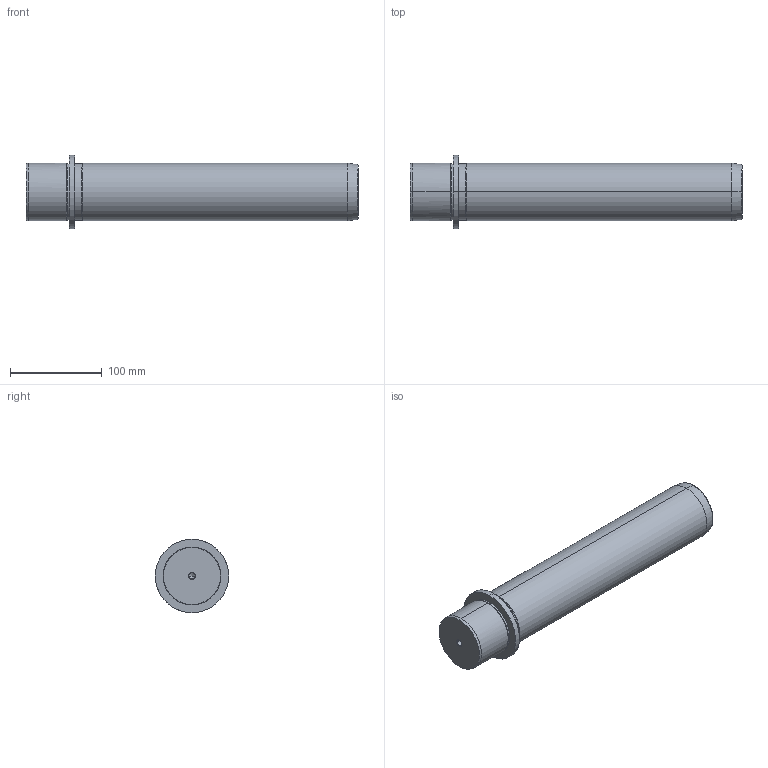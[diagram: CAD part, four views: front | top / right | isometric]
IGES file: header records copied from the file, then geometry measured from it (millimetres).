
Start section: START RECORD GO HERE.
Global section: file name: 718-63x315.igs; native system: DASSAULT SYSTEMES CATIA V5 R20 - www.3ds.com; preprocessor: CATIA Version 5 Release 20 ; author: Utente; organization: NB04-ASUS; date: 20210102.084145; units: millimetre
Bounding box: 362 x 80 x 80 mm (x, y, z)
Surface area: 82760.8 mm2 (no closed solid volume)
Topology: 0 solids, 0 shells, 36 faces, 196 edges, 192 vertices
Faces by surface type: revolution 32, plane 4
